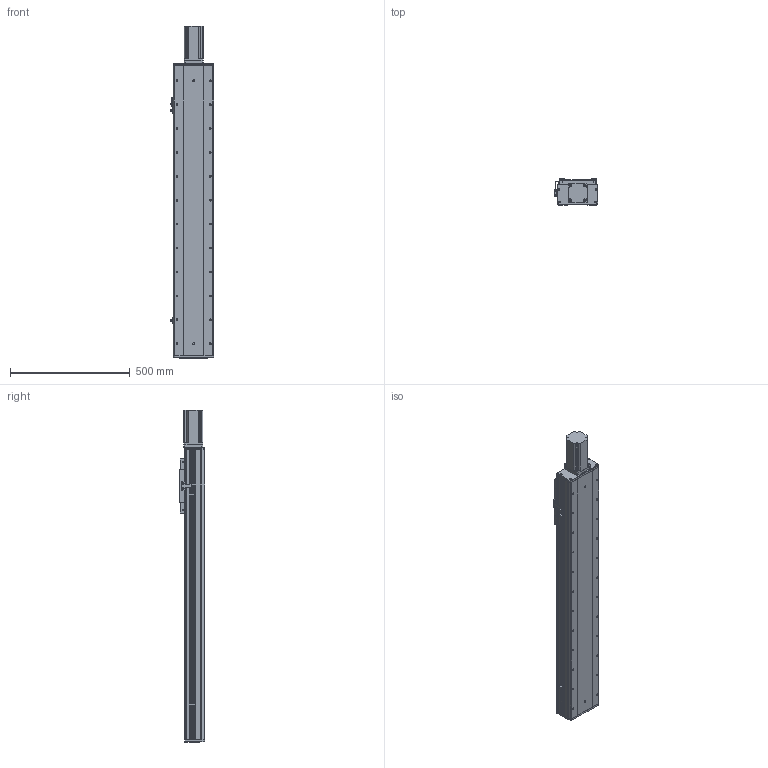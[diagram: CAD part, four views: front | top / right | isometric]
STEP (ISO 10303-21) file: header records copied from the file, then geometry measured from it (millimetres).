
FILE_DESCRIPTION (( 'STEP AP203' ), '1' );
FILE_NAME ('RY170F-L2020-300-MK.SLDASM_900.step', '2021-03-02T06:31:44', ( '盈信电脑' ), ( '东莞市道滘镇水果街19号' ), 'SwSTEP 2.0', 'SolidWorks 2012', '' );
FILE_SCHEMA (( 'CONFIG_CONTROL_DESIGN' ));
Length unit declared in the file: millimetre
Products named in the file (22): 侐源滅袉蝶; RY170F-L2020-300-MK.SLDASM_900; 覜茼ん674; RY170F-詩湍揤踡輸; 怢湛750W萇儂ㄗ80遺ㄘ; 滅袉蝶18-24; 750W萇儂梓袧蛌諉啣; 覜茼ん672; RY170F-揤踡謫假蚾粣; RY170F-后盖板(铝件）; RY170F俋离覜茼え; 侂狟400W侜督萇儂; RY170F-直连前盖板(铝件）; 滅袉蝶18-10; RY100F-詩湍揤踡謫; RY170F-丝杆铝滑块连接板; RY170F-佪裝臏賑輸20蹟譫; 15; RY170F-滅鳥奻裔; RY170F-300眻蟀祥凄詩湍-MK_900; RY170F-300眻蟀倰第奻裔啣-MK_900; RY170F-300眻蟀倰第菁釱-MK_900
Assembly tree (26 placements, depth 3):
  RY170F-L2020-300-MK.SLDASM_900
    RY170F-300眻蟀倰第菁釱-MK_900
    RY170F-300眻蟀祥凄詩湍-MK_900
    RY170F-300眻蟀倰第奻裔啣-MK_900  x2
    RY170F-滅鳥奻裔
    RY170F-佪裝臏賑輸20蹟譫
    RY170F-丝杆铝滑块连接板
    侂狟400W侜督萇儂
      15
    RY170F-直连前盖板(铝件）
    滅袉蝶18-10
    RY100F-詩湍揤踡謫
    RY170F-后盖板(铝件）
    覜茼ん672  x3
    RY170F俋离覜茼え
    RY170F-揤踡謫假蚾粣
    RY170F-詩湍揤踡輸  x2
    滅袉蝶18-24
    750W萇儂梓袧蛌諉啣
    怢湛750W萇儂ㄗ80遺ㄘ
    侐源滅袉蝶  x2
    覜茼ん674
Bounding box: 183.7 x 107 x 1389 mm (x, y, z)
Volume: 7289715.4 mm3; surface area: 2285426.4 mm2
Topology: 25 solids, 25 shells, 2292 faces, 6307 edges, 4026 vertices
Faces by surface type: cylinder 1025, plane 1001, cone 248, bspline 18
Entity records: 67147 total; most frequent: CARTESIAN_POINT 13201, DIRECTION 11057, ORIENTED_EDGE 10534, EDGE_CURVE 5267, AXIS2_PLACEMENT_3D 3948, VERTEX_POINT 3446, VECTOR 3161, LINE 3161
